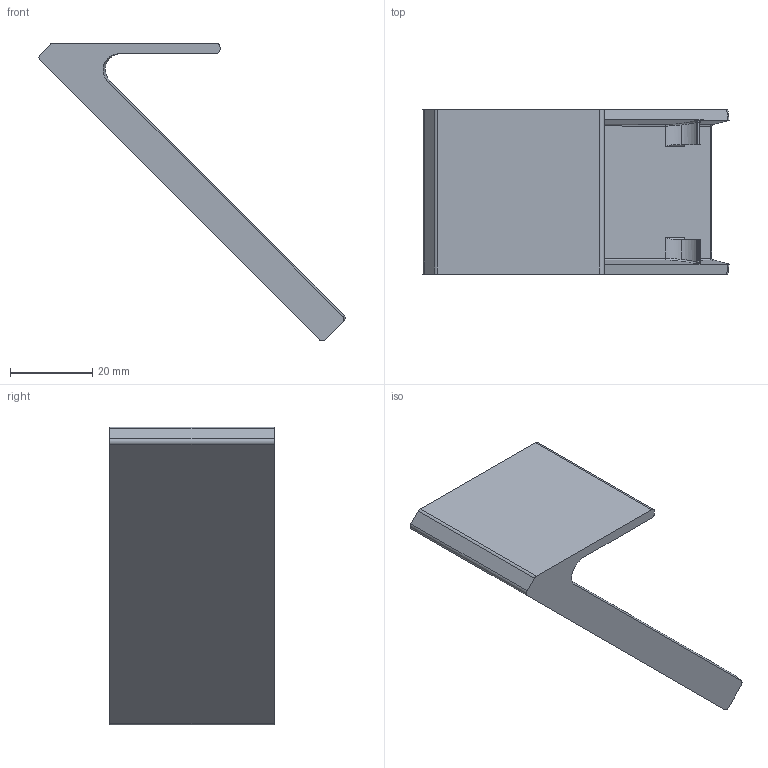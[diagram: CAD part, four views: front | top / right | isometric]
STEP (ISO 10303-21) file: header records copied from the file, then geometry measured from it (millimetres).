
FILE_DESCRIPTION (( 'STEP AP214' ), '1' );
FILE_NAME ('CustomHotWheelsCarHangerV2.STEP', '2026-02-24T05:52:51', ( '' ), ( '' ), 'SwSTEP 2.0', 'SolidWorks 2026', '' );
FILE_SCHEMA (( 'AUTOMOTIVE_DESIGN' ));
Length unit declared in the file: millimetre
Products named in the file (1): CustomHotWheelsCarHangerV2
Bounding box: 74.51 x 40.04 x 72.42 mm (x, y, z)
Volume: 18132.2 mm3; surface area: 13822.7 mm2
Topology: 1 solids, 1 shells, 72 faces, 186 edges, 116 vertices
Faces by surface type: cylinder 35, plane 23, bspline 12, sphere 2
Entity records: 2577 total; most frequent: CARTESIAN_POINT 935, ORIENTED_EDGE 372, DIRECTION 308, EDGE_CURVE 186, VERTEX_POINT 116, AXIS2_PLACEMENT_3D 107, LINE 94, VECTOR 94
